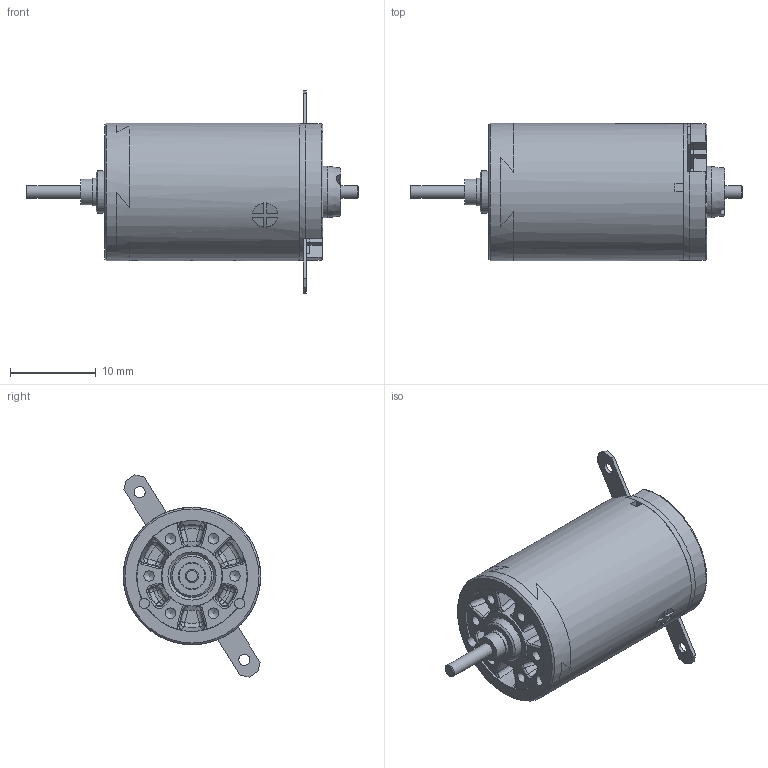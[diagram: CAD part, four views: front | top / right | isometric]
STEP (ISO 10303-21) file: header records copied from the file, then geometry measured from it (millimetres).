
FILE_DESCRIPTION(/* description */ (''),/* implementation_level */ '2;1');
FILE_NAME(/* name */ 'C:\Users\raffaele\Downloads\Projects\E&D\ipt-to-step-conversion\16DC25P-PM_G.stp',/* time_stamp */ '2021-02-10T15:33:50+01:00',/* author */ ('AOM'),/* organization */ (''),/* preprocessor_version */ 'ST-DEVELOPER v18',/* originating_system */ 'Autodesk Inventor 2020',/* authorisation */ '');
FILE_SCHEMA (('AUTOMOTIVE_DESIGN { 1 0 10303 214 3 1 1 }'));
Length unit declared in the file: millimetre
Products named in the file (1): DC-max 16 S - 16DC25P-PM_G
Bounding box: 38.65 x 16 x 23.53 mm (x, y, z)
Volume: 2341.1 mm3; surface area: 4407.5 mm2
Topology: 8 solids, 9 shells, 378 faces, 982 edges, 630 vertices
Faces by surface type: plane 182, cylinder 90, bspline 48, cone 24, sphere 20, torus 14
Full cylindrical faces by diameter (mm): 1.2 x2, 1.221 x8, 1.3 x2, 1.5 x5, 1.8 x3, 3 x2, 3.2 x1, 4 x1, 5 x2, 6 x1, 14.16 x3, 15.9 x1, 16 x2
Entity records: 14582 total; most frequent: CARTESIAN_POINT 4889, ORIENTED_EDGE 1952, DIRECTION 1942, EDGE_CURVE 976, AXIS2_PLACEMENT_3D 750, VERTEX_POINT 630, LINE 442, VECTOR 442
